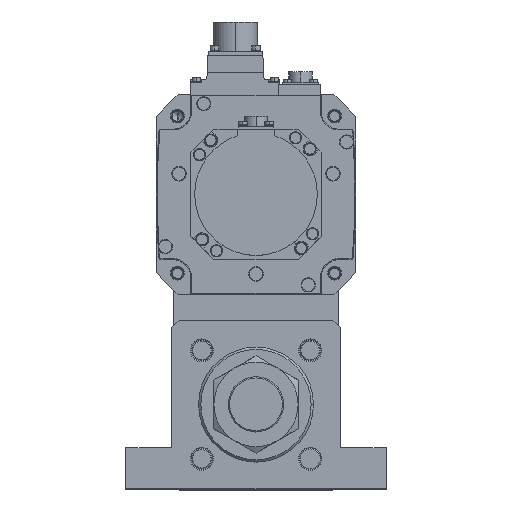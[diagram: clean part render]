
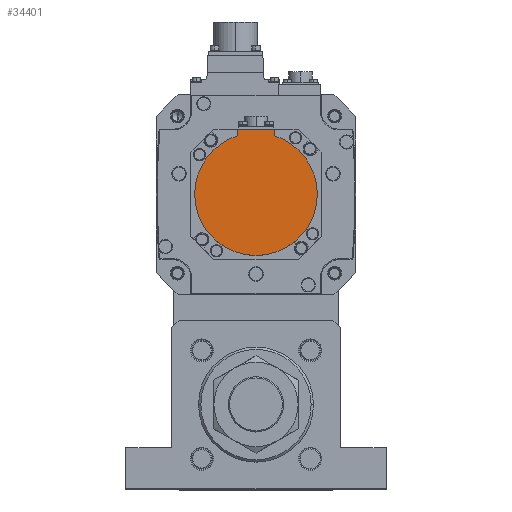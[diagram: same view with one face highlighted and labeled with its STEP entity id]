
A CAD part, top view. The second image highlights one B-rep face of the part: STEP entity #34401.
In plain terms, the highlighted planar face has unit normal (0, 0, 1) as drawn and (0, 0, -1) by its records, which use the part's own axes.
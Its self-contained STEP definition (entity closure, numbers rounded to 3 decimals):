
#256 = EDGE_CURVE ( 'NONE', #8239, #17373, #27291, .T. ) ;
#1058 = CARTESIAN_POINT ( 'NONE',  ( -12., -42.5, -167. ) ) ;
#2260 = AXIS2_PLACEMENT_3D ( 'NONE', #23887, #24743, #30117 ) ;
#2767 = DIRECTION ( 'NONE',  ( 1., 0., 0. ) ) ;
#3681 = LINE ( 'NONE', #30688, #19827 ) ;
#3795 = CARTESIAN_POINT ( 'NONE',  ( 0., -42.5, -167. ) ) ;
#3824 = ORIENTED_EDGE ( 'NONE', *, *, #34024, .T. ) ;
#4955 = EDGE_CURVE ( 'NONE', #17373, #31472, #13195, .T. ) ;
#7685 = VERTEX_POINT ( 'NONE', #23306 ) ;
#8239 = VERTEX_POINT ( 'NONE', #37049 ) ;
#8320 = ORIENTED_EDGE ( 'NONE', *, *, #256, .F. ) ;
#8360 = FACE_OUTER_BOUND ( 'NONE', #29107, .T. ) ;
#9185 = CARTESIAN_POINT ( 'NONE',  ( 12., -42.5, -167. ) ) ;
#10036 = DIRECTION ( 'NONE',  ( -1., 0., 0. ) ) ;
#10346 = EDGE_CURVE ( 'NONE', #20957, #7685, #3681, .T. ) ;
#12225 = CARTESIAN_POINT ( 'NONE',  ( -40., 0., -167. ) ) ;
#12299 = ORIENTED_EDGE ( 'NONE', *, *, #10346, .F. ) ;
#12391 = VECTOR ( 'NONE', #28529, 1000. ) ;
#13195 = CIRCLE ( 'NONE', #20009, 40. ) ;
#13778 = DIRECTION ( 'NONE',  ( 0., 1., 0. ) ) ;
#13791 = LINE ( 'NONE', #3795, #36134 ) ;
#14756 = DIRECTION ( 'NONE',  ( 0., 0., 1. ) ) ;
#15119 = EDGE_CURVE ( 'NONE', #7685, #8239, #20342, .T. ) ;
#17299 = PLANE ( 'NONE',  #30483 ) ;
#17373 = VERTEX_POINT ( 'NONE', #12225 ) ;
#18189 = DIRECTION ( 'NONE',  ( 0., 0., 1. ) ) ;
#19827 = VECTOR ( 'NONE', #13778, 1000. ) ;
#19844 = CARTESIAN_POINT ( 'NONE',  ( 0., 0., -167. ) ) ;
#20009 = AXIS2_PLACEMENT_3D ( 'NONE', #35291, #18189, #31024 ) ;
#20342 = CIRCLE ( 'NONE', #2260, 40. ) ;
#20957 = VERTEX_POINT ( 'NONE', #9185 ) ;
#23241 = AXIS2_PLACEMENT_3D ( 'NONE', #19844, #31076, #25113 ) ;
#23306 = CARTESIAN_POINT ( 'NONE',  ( 12., -38.158, -167. ) ) ;
#23887 = CARTESIAN_POINT ( 'NONE',  ( 0., 0., -167. ) ) ;
#24743 = DIRECTION ( 'NONE',  ( 0., 0., 1. ) ) ;
#25113 = DIRECTION ( 'NONE',  ( 1., 0., 0. ) ) ;
#25127 = VERTEX_POINT ( 'NONE', #1058 ) ;
#27291 = CIRCLE ( 'NONE', #23241, 40. ) ;
#28529 = DIRECTION ( 'NONE',  ( 0., 1., 0. ) ) ;
#28658 = CARTESIAN_POINT ( 'NONE',  ( -12., -40.329, -167. ) ) ;
#29107 = EDGE_LOOP ( 'NONE', ( #33415, #35489, #8320, #33829, #12299, #3824 ) ) ;
#29427 = LINE ( 'NONE', #28658, #12391 ) ;
#30117 = DIRECTION ( 'NONE',  ( 1., 0., 0. ) ) ;
#30483 = AXIS2_PLACEMENT_3D ( 'NONE', #34658, #14756, #2767 ) ;
#30688 = CARTESIAN_POINT ( 'NONE',  ( 12., -1.249, -167. ) ) ;
#31024 = DIRECTION ( 'NONE',  ( 1., 0., 0. ) ) ;
#31076 = DIRECTION ( 'NONE',  ( 0., 0., 1. ) ) ;
#31472 = VERTEX_POINT ( 'NONE', #36762 ) ;
#33415 = ORIENTED_EDGE ( 'NONE', *, *, #34787, .T. ) ;
#33829 = ORIENTED_EDGE ( 'NONE', *, *, #15119, .F. ) ;
#34024 = EDGE_CURVE ( 'NONE', #20957, #25127, #13791, .T. ) ;
#34401 = ADVANCED_FACE ( 'NONE', ( #8360 ), #17299, .F. ) ;
#34658 = CARTESIAN_POINT ( 'NONE',  ( 0., -1.249, -167. ) ) ;
#34787 = EDGE_CURVE ( 'NONE', #25127, #31472, #29427, .T. ) ;
#35291 = CARTESIAN_POINT ( 'NONE',  ( 0., 0., -167. ) ) ;
#35489 = ORIENTED_EDGE ( 'NONE', *, *, #4955, .F. ) ;
#36134 = VECTOR ( 'NONE', #10036, 1000. ) ;
#36762 = CARTESIAN_POINT ( 'NONE',  ( -12., -38.158, -167. ) ) ;
#37049 = CARTESIAN_POINT ( 'NONE',  ( 40., 0., -167. ) ) ;
